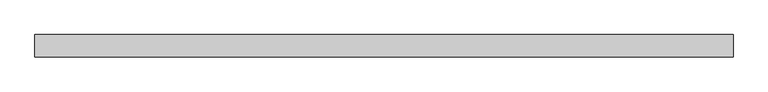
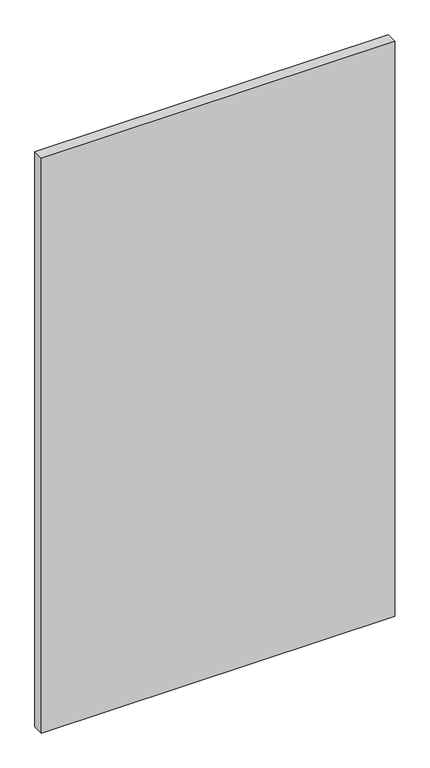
"""IFC4 building model written with IfcOpenShell, lengths in millimetres: plate geometry, Panneau système : Vitre 4cm."""

import ifcopenshell
import ifcopenshell.guid

model = None  # the IFC model being written
_history = None  # IfcOwnerHistory: only IFC2X3 demands one
_inside = {}  # id of a spatial element -> (the spatial element, [elements in it])
_under = {}  # id of a project, library or spatial element -> (it, [spatial elements below it])
_declared = {}  # id of a project -> (the project, [libraries it declares])
_typed = {}  # id of a type object -> (the type object, [elements of that type])
_made_of = {}  # id of a material, layer set ... -> (it, [elements and type objects made of it])


def new_model(schema):
    """Start an empty IFC model of exactly this schema.

    Asked for "IFC4X3", IfcOpenShell would pick the latest addendum, in which some entities
    have other attributes; the version numbers below select the first issue.
    IFC2X3 requires an IfcOwnerHistory on every rooted entity: one is made here for all.
    """
    global model, _history
    if schema == "IFC4X3":
        model = ifcopenshell.file(schema_version=(4, 3, 0, 0))
    else:
        model = ifcopenshell.file(schema=schema)
    _inside.clear()
    _under.clear()
    _declared.clear()
    _typed.clear()
    _made_of.clear()
    _history = None
    if model.schema == "IFC2X3":
        org = make("IfcOrganization", Name="unknown")
        user = make(
            "IfcPersonAndOrganization",
            ThePerson=make("IfcPerson", FamilyName="unknown"),
            TheOrganization=org,
        )
        app = make(
            "IfcApplication",
            ApplicationDeveloper=org,
            Version="unknown",
            ApplicationFullName="unknown",
            ApplicationIdentifier="unknown",
        )
        _history = make(
            "IfcOwnerHistory",
            OwningUser=user,
            OwningApplication=app,
            ChangeAction="ADDED",
            CreationDate=0,
        )
    return model


def make(cls, **values):
    """One entity of the class cls with the attributes given. An attribute that is None is left unset."""
    return model.create_entity(
        cls, **{name: value for name, value in values.items() if value is not None}
    )


def rooted(cls, **values):
    """An entity with a GlobalId (a new one), such as an element, a storey or a relation."""
    return make(cls, GlobalId=ifcopenshell.guid.new(), OwnerHistory=_history, **values)


def si_unit(unit_type, name, prefix=None):
    """IfcSIUnit, for example si_unit("LENGTHUNIT", "METRE", prefix="MILLI")."""
    return make("IfcSIUnit", UnitType=unit_type, Prefix=prefix, Name=name)


def assignment(units):
    """IfcUnitAssignment: the units of a project."""
    return None if units is None else make("IfcUnitAssignment", Units=units)


def point(xyz):
    """IfcCartesianPoint."""
    return None if xyz is None else make("IfcCartesianPoint", Coordinates=xyz)


def direction(xyz):
    """IfcDirection."""
    return None if xyz is None else make("IfcDirection", DirectionRatios=xyz)


def frame(location, z_axis=None, x_axis=None):
    """IfcAxis2Placement3D, a coordinate frame: its origin and axes. An axis left out is left unset."""
    return make(
        "IfcAxis2Placement3D",
        Location=point(location),
        Axis=direction(z_axis),
        RefDirection=direction(x_axis),
    )


def origin():
    """The frame at (0, 0, 0) with its axes left unset."""
    return frame((0.0, 0.0, 0.0))


def origin_with_axes():
    """The frame at (0, 0, 0) with the z axis (0, 0, 1) and the x axis (1, 0, 0) written out."""
    return frame((0.0, 0.0, 0.0), z_axis=(0.0, 0.0, 1.0), x_axis=(1.0, 0.0, 0.0))


def place(relative_to, where):
    """IfcLocalPlacement: puts the frame where relative to a parent placement (None: the world)."""
    return make(
        "IfcLocalPlacement", PlacementRelTo=relative_to, RelativePlacement=where
    )


def context(
    kind, dimensions, precision=None, world=None, true_north=None, identifier=None
):
    """IfcGeometricRepresentationContext, for example the 3D "Model" context."""
    return make(
        "IfcGeometricRepresentationContext",
        ContextIdentifier=identifier,
        ContextType=kind,
        CoordinateSpaceDimension=dimensions,
        Precision=precision,
        WorldCoordinateSystem=world,
        TrueNorth=true_north,
    )


def project(units=None, contexts=None):
    """IfcProject with its units and contexts."""
    return rooted(
        "IfcProject",
        Name="project",
        RepresentationContexts=contexts,
        UnitsInContext=assignment(units),
    )


def spatial(cls, under=None, at=None, **own):
    """A site, building, storey or space (cls), placed at a placement, below another one or the project."""
    s = rooted(cls, ObjectPlacement=at, **own)
    if under is not None:
        _under.setdefault(under.id(), (under, []))[1].append(s)
    return s


def polyline(points):
    """IfcPolyline through the points."""
    return make("IfcPolyline", Points=[point(p) for p in points])


def outline(outer, holes=None, kind="AREA"):
    """IfcArbitraryClosedProfileDef: a profile drawn as a closed curve; with holes, ...WithVoids."""
    if holes is None:
        return make("IfcArbitraryClosedProfileDef", ProfileType=kind, OuterCurve=outer)
    return make(
        "IfcArbitraryProfileDefWithVoids",
        ProfileType=kind,
        OuterCurve=outer,
        InnerCurves=holes,
    )


def extrude(swept, where, along, depth):
    """IfcExtrudedAreaSolid: the profile swept, set in the frame where, extruded along a direction by depth."""
    return make(
        "IfcExtrudedAreaSolid",
        SweptArea=swept,
        Position=where,
        ExtrudedDirection=direction(along),
        Depth=depth,
    )


def shape(context_of_items, identifier, shape_type, items):
    """IfcShapeRepresentation: the items that make up one representation, for example the "Body"."""
    return make(
        "IfcShapeRepresentation",
        ContextOfItems=context_of_items,
        RepresentationIdentifier=identifier,
        RepresentationType=shape_type,
        Items=items,
    )


def source(mapping_origin, context_of_items, identifier, shape_type, items):
    """IfcRepresentationMap: a shape defined once, which mapped items show again and again."""
    return make(
        "IfcRepresentationMap",
        MappingOrigin=mapping_origin,
        MappedRepresentation=shape(context_of_items, identifier, shape_type, items),
    )


def transform(
    local_origin,
    x_axis=None,
    y_axis=None,
    z_axis=None,
    scale=None,
    scale2=None,
    scale3=None,
    uniform=True,
):
    """IfcCartesianTransformationOperator3D, or its non-uniform kind. x_axis, y_axis, z_axis: its Axis1, 2, 3."""
    if uniform:
        return make(
            "IfcCartesianTransformationOperator3D",
            Axis1=direction(x_axis),
            Axis2=direction(y_axis),
            LocalOrigin=point(local_origin),
            Scale=scale,
            Axis3=direction(z_axis),
        )
    return make(
        "IfcCartesianTransformationOperator3DnonUniform",
        Axis1=direction(x_axis),
        Axis2=direction(y_axis),
        LocalOrigin=point(local_origin),
        Scale=scale,
        Axis3=direction(z_axis),
        Scale2=scale2,
        Scale3=scale3,
    )


def mapped(mapping_source, mapping_target):
    """IfcMappedItem: shows the shape of a source again, moved by a transform."""
    return make(
        "IfcMappedItem", MappingSource=mapping_source, MappingTarget=mapping_target
    )


def made_of(thing, what):
    """Note that an element or type object is made of a material, layer set ...; save() writes the relation."""
    if what is not None:
        _made_of.setdefault(what.id(), (what, []))[1].append(thing)
    return thing


def element(
    cls,
    number,
    at=None,
    inside=None,
    cuts=None,
    type_object=None,
    material=None,
    context=None,
    identifier="Body",
    shape_type=None,
    held_by="IfcProductDefinitionShape",
    body=None,
    shapes=None,
    **own,
):
    """One element of the class cls, such as IfcWall. Its Tag is "e" and its number.

    at: its placement. inside: the storey or other place that contains it. cuts: it is an
    opening in that element (IfcRelVoidsElement). A single representation is given by context,
    identifier, shape_type and body (its items); several are given by shapes. held_by: the class
    of the entity that holds the representations. save() writes the other relations.
    """
    e = rooted(cls, Tag="e%d" % number, ObjectPlacement=at, **own)
    if body is not None:
        shapes = [shape(context, identifier, shape_type, body)]
    if shapes is not None:
        e.Representation = make(held_by, Representations=shapes)
    if inside is not None:
        _inside.setdefault(inside.id(), (inside, []))[1].append(e)
    if cuts is not None:
        rooted(
            "IfcRelVoidsElement", RelatingBuildingElement=cuts, RelatedOpeningElement=e
        )
    if type_object is not None:
        _typed.setdefault(type_object.id(), (type_object, []))[1].append(e)
    return made_of(e, material)


def aggregate(whole, parts):
    """IfcRelAggregates: a whole, such as a stair, and the parts it consists of."""
    return rooted("IfcRelAggregates", RelatingObject=whole, RelatedObjects=parts)


def save(model, path):
    """Write the relations noted so far, then the file.

    IfcRelAggregates (storeys below a building ...), IfcRelContainedInSpatialStructure (elements
    in a storey), IfcRelDefinesByType, IfcRelAssociatesMaterial and IfcRelDeclares: one each for
    every whole, place, type object, material and project.
    """
    for whole, parts in _under.values():
        aggregate(whole, parts)
    for where, things in _inside.values():
        rooted(
            "IfcRelContainedInSpatialStructure",
            RelatedElements=things,
            RelatingStructure=where,
        )
    for kind, things in _typed.values():
        rooted("IfcRelDefinesByType", RelatedObjects=things, RelatingType=kind)
    for what, things in _made_of.values():
        rooted("IfcRelAssociatesMaterial", RelatedObjects=things, RelatingMaterial=what)
    for by, libraries in _declared.values():
        rooted("IfcRelDeclares", RelatingContext=by, RelatedDefinitions=libraries)
    model.write(path)


def plate_f97e29b2(model_context):
    return source(origin(), model_context, "Body", "SweptSolid", [
        extrude(outline(polyline([(625.0, -20.0), (-625.0, -20.0), (-625.0, 20.0), (625.0, 20.0), (625.0, -20.0)])), origin_with_axes(), (0.0, 0.0, 1.0), 2150.0),
    ])


if __name__ == "__main__":
    model = new_model("IFC4")
    model_context = context("Model", 3, world=origin())
    ifc_project = project(units=[si_unit("LENGTHUNIT", "METRE", prefix="MILLI")], contexts=[model_context])
    site = spatial("IfcSite", under=ifc_project)
    building = spatial("IfcBuilding", under=site)
    placement = place(None, origin())
    plate_shape = plate_f97e29b2(model_context)
    element("IfcPlate", 1, ObjectType="Panneau système : Vitre 4cm", at=placement, inside=building, context=model_context, shape_type="MappedRepresentation", body=[
        mapped(plate_shape, transform((0.0, 0.0, 0.0), x_axis=(1.0, 0.0, 0.0), y_axis=(0.0, 1.0, 0.0), z_axis=(0.0, 0.0, 1.0))),
    ])
    save(model, "model.ifc")
